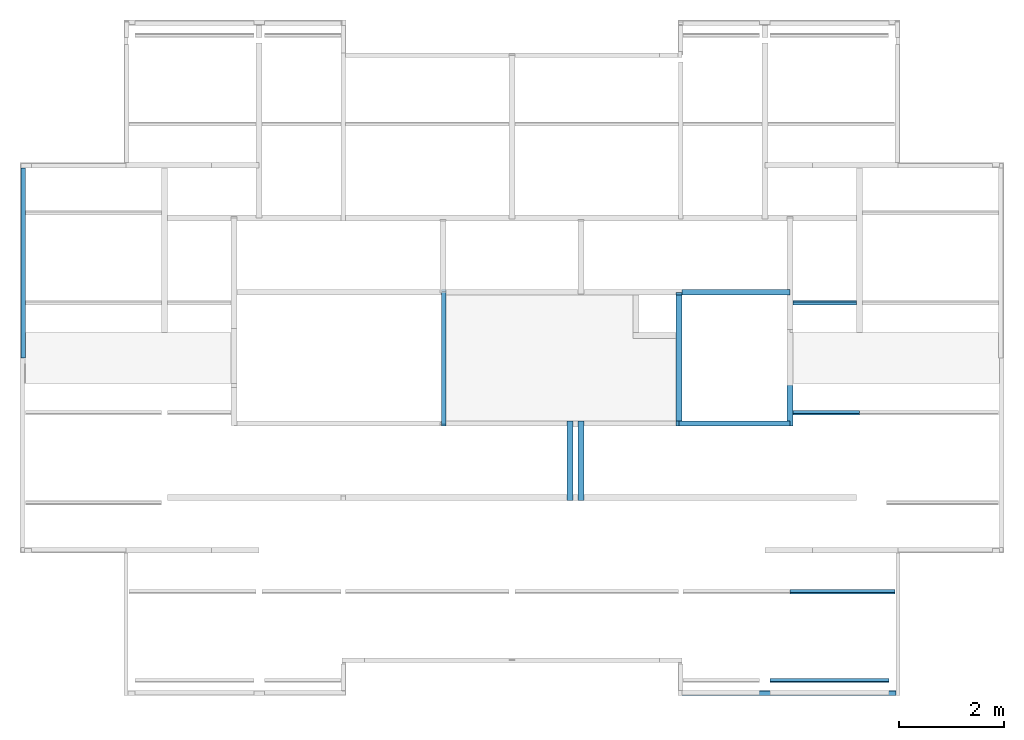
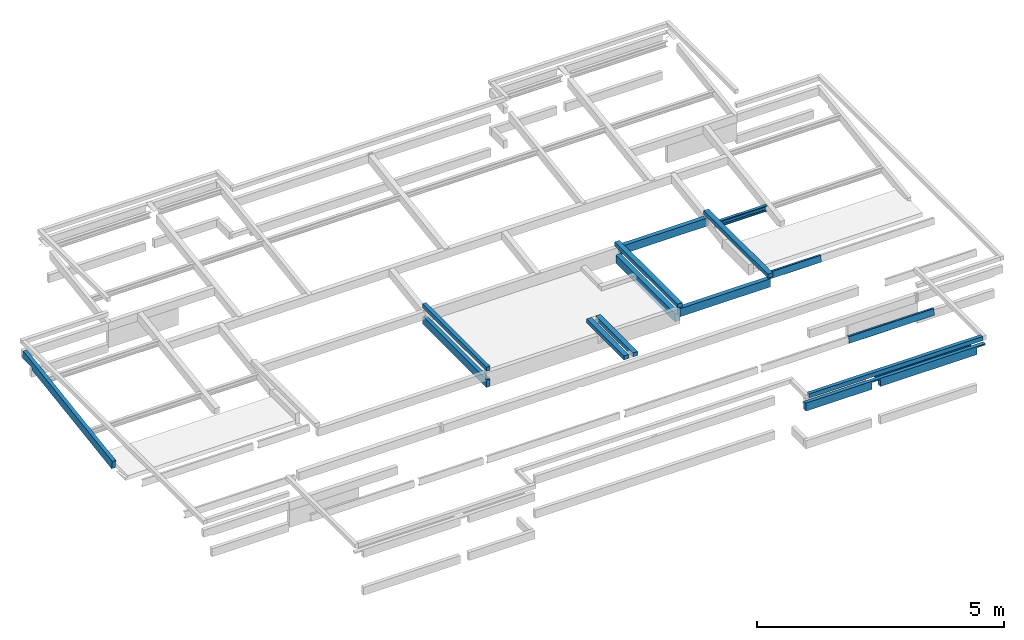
# One storey, part 3 of 9: 16 beams.
"""IFC4 building model written with IfcOpenShell, lengths in metres."""

from ifc_helpers import new_model, entity, si_unit, converted_unit, derived_unit, direction, frame, origin, place, context, subcontext, project, spatial, line, arc, indexed_curve, outline, extrude, source, transform, mapped, material, type_object, type_shapes, element, save


model = new_model("IFC4")

# Units and contexts
model_context = context("Model", 3, precision=1e-05, world=origin(), true_north=direction((6.123031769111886e-17, 1.0)))
body_context = subcontext(model_context, "Body", "Model", "MODEL_VIEW")
ifc_project = project(units=[si_unit("LENGTHUNIT", "METRE"), si_unit("AREAUNIT", "SQUARE_METRE"), si_unit("VOLUMEUNIT", "CUBIC_METRE"), converted_unit("PLANEANGLEUNIT", "DEGREE", entity("IfcRatioMeasure", 0.017453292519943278), si_unit("PLANEANGLEUNIT", "RADIAN"), dimensions=[0, 0, 0, 0, 0, 0, 0]), si_unit("MASSUNIT", "GRAM", prefix="KILO"), derived_unit("MASSDENSITYUNIT", [(si_unit("MASSUNIT", "GRAM", prefix="KILO"), 1), (si_unit("LENGTHUNIT", "METRE"), -3)]), derived_unit("IONCONCENTRATIONUNIT", [(si_unit("MASSUNIT", "GRAM", prefix="KILO"), 1), (si_unit("LENGTHUNIT", "METRE"), -3)]), derived_unit("MOMENTOFINERTIAUNIT", [(si_unit("LENGTHUNIT", "METRE"), 4)]), si_unit("TIMEUNIT", "SECOND"), si_unit("FREQUENCYUNIT", "HERTZ"), si_unit("THERMODYNAMICTEMPERATUREUNIT", "DEGREE_CELSIUS"), derived_unit("THERMALTRANSMITTANCEUNIT", [(si_unit("MASSUNIT", "GRAM", prefix="KILO"), 1), (si_unit("THERMODYNAMICTEMPERATUREUNIT", "KELVIN"), -1), (si_unit("TIMEUNIT", "SECOND"), -3)]), derived_unit("THERMALCONDUCTANCEUNIT", [(si_unit("MASSUNIT", "GRAM", prefix="KILO"), 1), (si_unit("THERMODYNAMICTEMPERATUREUNIT", "KELVIN"), -1), (si_unit("TIMEUNIT", "SECOND"), -3), (si_unit("LENGTHUNIT", "METRE"), 1)]), derived_unit("VOLUMETRICFLOWRATEUNIT", [(si_unit("LENGTHUNIT", "METRE"), 3), (si_unit("TIMEUNIT", "SECOND"), -1)]), derived_unit("MASSFLOWRATEUNIT", [(si_unit("MASSUNIT", "GRAM", prefix="KILO"), 1), (si_unit("TIMEUNIT", "SECOND"), -1)]), derived_unit("ROTATIONALFREQUENCYUNIT", [(si_unit("TIMEUNIT", "SECOND"), -1)]), si_unit("ELECTRICCURRENTUNIT", "AMPERE"), si_unit("ELECTRICVOLTAGEUNIT", "VOLT"), si_unit("POWERUNIT", "WATT"), si_unit("FORCEUNIT", "NEWTON", prefix="KILO"), si_unit("ILLUMINANCEUNIT", "LUX"), si_unit("LUMINOUSFLUXUNIT", "LUMEN"), si_unit("LUMINOUSINTENSITYUNIT", "CANDELA"), derived_unit("USERDEFINED", [(si_unit("MASSUNIT", "GRAM", prefix="KILO"), -1), (si_unit("LENGTHUNIT", "METRE"), -2), (si_unit("TIMEUNIT", "SECOND"), 3), (si_unit("LUMINOUSFLUXUNIT", "LUMEN"), 1)]), derived_unit("USERDEFINED", [(si_unit("MASSUNIT", "GRAM", prefix="KILO"), 1), (si_unit("TIMEUNIT", "SECOND"), -3), (si_unit("LENGTHUNIT", "METRE"), 3), (si_unit("ELECTRICCURRENTUNIT", "AMPERE"), -2)]), derived_unit("SOUNDPOWERUNIT", [(si_unit("MASSUNIT", "GRAM", prefix="KILO"), 1), (si_unit("TIMEUNIT", "SECOND"), -3), (si_unit("LENGTHUNIT", "METRE"), 2)]), derived_unit("SOUNDPRESSUREUNIT", [(si_unit("MASSUNIT", "GRAM", prefix="KILO"), 1), (si_unit("LENGTHUNIT", "METRE"), -1), (si_unit("TIMEUNIT", "SECOND"), -2)]), derived_unit("LINEARVELOCITYUNIT", [(si_unit("LENGTHUNIT", "METRE"), 1), (si_unit("TIMEUNIT", "SECOND"), -1)]), si_unit("PRESSUREUNIT", "PASCAL"), derived_unit("USERDEFINED", [(si_unit("MASSUNIT", "GRAM", prefix="KILO"), 1), (si_unit("LENGTHUNIT", "METRE"), -2), (si_unit("TIMEUNIT", "SECOND"), -2)]), derived_unit("LINEARFORCEUNIT", [(si_unit("MASSUNIT", "GRAM", prefix="KILO"), 1), (si_unit("TIMEUNIT", "SECOND"), -2)]), derived_unit("PLANARFORCEUNIT", [(si_unit("MASSUNIT", "GRAM", prefix="KILO"), 1), (si_unit("LENGTHUNIT", "METRE"), -1), (si_unit("TIMEUNIT", "SECOND"), -2)]), derived_unit("SPECIFICHEATCAPACITYUNIT", [(si_unit("THERMODYNAMICTEMPERATUREUNIT", "KELVIN"), -1), (si_unit("LENGTHUNIT", "METRE"), 2), (si_unit("TIMEUNIT", "SECOND"), -2)]), derived_unit("HEATINGVALUEUNIT", [(si_unit("LENGTHUNIT", "METRE"), 2), (si_unit("TIMEUNIT", "SECOND"), -2)]), derived_unit("VAPORPERMEABILITYUNIT", [(si_unit("LENGTHUNIT", "METRE"), -1), (si_unit("TIMEUNIT", "SECOND"), 1)]), derived_unit("DYNAMICVISCOSITYUNIT", [(si_unit("MASSUNIT", "GRAM", prefix="KILO"), 1), (si_unit("TIMEUNIT", "SECOND"), -1), (si_unit("LENGTHUNIT", "METRE"), -1)]), derived_unit("THERMALEXPANSIONCOEFFICIENTUNIT", [(si_unit("THERMODYNAMICTEMPERATUREUNIT", "KELVIN"), -1)]), derived_unit("MODULUSOFELASTICITYUNIT", [(si_unit("MASSUNIT", "GRAM", prefix="KILO"), 1), (si_unit("LENGTHUNIT", "METRE"), -1), (si_unit("TIMEUNIT", "SECOND"), -2)]), derived_unit("ISOTHERMALMOISTURECAPACITYUNIT", [(si_unit("LENGTHUNIT", "METRE"), 3), (si_unit("MASSUNIT", "GRAM", prefix="KILO"), -1)]), derived_unit("MOISTUREDIFFUSIVITYUNIT", [(si_unit("TIMEUNIT", "SECOND"), -1), (si_unit("LENGTHUNIT", "METRE"), 2)])], contexts=[model_context])

# Site, building, storey
site_placement = place(None, origin())
site = spatial("IfcSite", under=ifc_project, at=site_placement, Name="Default", CompositionType="ELEMENT")
building_placement = place(site_placement, origin())
building = spatial("IfcBuilding", under=site, at=building_placement, Name="Las nubes", CompositionType="ELEMENT")
storey_placement = place(building_placement, frame((0.0, 0.0, 14.100000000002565)))
storey = spatial("IfcBuildingStorey", under=building, at=storey_placement, Name="CUBIERTA", CompositionType="ELEMENT", Elevation=14.100000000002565)

# Beams
ifc_material_1 = material(Name="Concrete, Cast In Situ", Category="Materials")
beam_type_1 = type_object("IfcBeamType", Name="M_Concrete-Rectangular Beam:(0.085x0.20)", PredefinedType="BEAM", material=ifc_material_1)
shared_shape_1 = source(origin(), body_context, "Body", "SweptSolid", [
    extrude(outline(indexed_curve([(-1.4700214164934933, -0.14048731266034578), (2.185489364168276, -0.14048731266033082), (2.1854893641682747, 0.04137520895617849), (2.185489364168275, 0.059512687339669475), (-1.0708697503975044, 0.059512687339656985), (-1.079564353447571, 0.0015486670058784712), (-1.4659911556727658, 0.05951268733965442), (-1.4700214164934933, 0.05951268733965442), (-1.4700214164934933, -0.14048731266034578)], self_intersect=False)), frame((-0.027499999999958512, -4.242850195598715, 14.371388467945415), z_axis=(1.0, 0.0, 0.0), x_axis=(0.0, -0.9889363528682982, -0.1483404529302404)), (0.0, 0.0, 1.0), 0.08500000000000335),
])
type_shapes(beam_type_1, [shared_shape_1])
beam_1_placement = place(storey_placement, frame((0.0, 0.0, -14.100000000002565)))
element("IfcBeam", 1, at=beam_1_placement, inside=storey, type_object=beam_type_1, material=ifc_material_1, Name="M_Concrete-Rectangular Beam:(0.085x0.20)", ObjectType="M_Concrete-Rectangular Beam:(0.085x0.20)", PredefinedType="BEAM", context=body_context, shape_type="MappedRepresentation", body=[
    mapped(shared_shape_1, transform((0.0, 0.0, 0.0), scale=1.0)),
])
beam_type_2 = type_object("IfcBeamType", Name="M_Concrete-Rectangular Beam:(0.085x0.20)", PredefinedType="BEAM", material=ifc_material_1)
shared_shape_2 = source(origin(), body_context, "Body", "SweptSolid", [
    extrude(outline(indexed_curve([(-2.2989999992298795, -0.09428000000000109), (1.9060000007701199, -0.09428000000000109), (1.9060000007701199, -0.05858000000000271), (1.705999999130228, -0.05858000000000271), (1.705999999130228, 0.10571999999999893), (-0.5565000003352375, 0.10571999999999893), (-0.5565000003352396, -0.05858000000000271), (-0.7565000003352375, -0.05858000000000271), (-0.7565000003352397, 0.10571999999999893), (-2.2989999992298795, 0.10571999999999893), (-2.2989999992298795, -0.09428000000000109)], self_intersect=False)), frame((14.791500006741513, -12.840000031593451, 15.041420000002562), z_axis=(0.0, 1.0, 0.0), x_axis=(1.0, 0.0, 0.0)), (0.0, 0.0, 1.0), 0.08500000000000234),
])
type_shapes(beam_type_2, [shared_shape_2])
beam_2_placement = place(storey_placement, frame((0.0, 0.0, -14.100000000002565)))
element("IfcBeam", 2, at=beam_2_placement, inside=storey, type_object=beam_type_2, material=ifc_material_1, Name="M_Concrete-Rectangular Beam:(0.085x0.20)", ObjectType="M_Concrete-Rectangular Beam:(0.085x0.20)", PredefinedType="BEAM", context=body_context, shape_type="MappedRepresentation", body=[
    mapped(shared_shape_2, transform((0.0, 0.0, 0.0), scale=1.0)),
])
beam_type_3 = type_object("IfcBeamType", Name="M_Concrete-Rectangular Beam:(0.085x0.10)", PredefinedType="BEAM", material=ifc_material_1)
shared_shape_3 = source(origin(), body_context, "Body", "SweptSolid", [
    extrude(outline(indexed_curve([(-0.04250000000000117, -0.04999999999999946), (0.04250000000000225, -0.04999999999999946), (0.04250000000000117, 0.050000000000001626), (-0.04250000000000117, 0.04999999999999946), (-0.04250000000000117, -0.04999999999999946)], self_intersect=False)), frame((8.020000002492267, -7.725000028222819, 14.45000000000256), z_axis=(0.0, 1.0, 0.0), x_axis=(-1.0, 0.0, 0.0)), (0.0, 0.0, 1.0), 2.600000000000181),
])
type_shapes(beam_type_3, [shared_shape_3])
beam_3_placement = place(storey_placement, frame((0.0, 0.0, -14.100000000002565)))
element("IfcBeam", 3, at=beam_3_placement, inside=storey, type_object=beam_type_3, material=ifc_material_1, Name="M_Concrete-Rectangular Beam:(0.085x0.10)", ObjectType="M_Concrete-Rectangular Beam:(0.085x0.10)", PredefinedType="BEAM", context=body_context, shape_type="MappedRepresentation", body=[
    mapped(shared_shape_3, transform((0.0, 0.0, 0.0), scale=1.0)),
])
beam_type_4 = type_object("IfcBeamType", Name="M_Concrete-Rectangular Beam:(0.115x0.10)", PredefinedType="BEAM", material=ifc_material_1)
shared_shape_4 = source(origin(), body_context, "Body", "SweptSolid", [
    extrude(outline(indexed_curve([(-0.05750000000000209, -0.04999999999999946), (0.05750000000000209, -0.04999999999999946), (0.05750000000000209, 0.050000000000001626), (-0.05750000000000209, 0.04999999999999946), (-0.05750000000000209, -0.04999999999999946)], self_intersect=False)), frame((12.500000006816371, -7.725000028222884, 14.45000000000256), z_axis=(0.0, 1.0, 0.0), x_axis=(-1.0, 0.0, 0.0)), (0.0, 0.0, 1.0), 2.542500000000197),
])
type_shapes(beam_type_4, [shared_shape_4])
beam_4_placement = place(storey_placement, frame((0.0, 0.0, -14.100000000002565)))
element("IfcBeam", 4, at=beam_4_placement, inside=storey, type_object=beam_type_4, material=ifc_material_1, Name="M_Concrete-Rectangular Beam:(0.115x0.10)", ObjectType="M_Concrete-Rectangular Beam:(0.115x0.10)", PredefinedType="BEAM", context=body_context, shape_type="MappedRepresentation", body=[
    mapped(shared_shape_4, transform((0.0, 0.0, 0.0), scale=1.0)),
])
beam_type_5 = type_object("IfcBeamType", Name="M_Concrete-Rectangular Beam:(0.115x0.10)", PredefinedType="BEAM", material=ifc_material_1)
shared_shape_5 = source(origin(), body_context, "Body", "SweptSolid", [
    extrude(outline(indexed_curve([(-0.04999999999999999, -0.05750000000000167), (0.04999999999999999, -0.05750000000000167), (0.04999999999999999, 0.05750000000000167), (-0.04999999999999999, 0.05750000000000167), (-0.04999999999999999, -0.05750000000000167)], self_intersect=False)), frame((-1.299999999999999, 0.0, 0.0), z_axis=(1.0, 0.0, 0.0), x_axis=(0.0, 0.0, -1.0)), (0.0, 0.0, 1.0), 2.599999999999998),
])
type_shapes(beam_type_5, [shared_shape_5])
beam_5_placement = place(storey_placement, frame((14.615000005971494, -6.4250000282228, 0.35000000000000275), z_axis=(0.0, 0.0, 1.0), x_axis=(0.0, 1.0, 0.0)))
element("IfcBeam", 5, at=beam_5_placement, inside=storey, type_object=beam_type_5, material=ifc_material_1, Name="M_Concrete-Rectangular Beam:(0.115x0.10)", ObjectType="M_Concrete-Rectangular Beam:(0.115x0.10)", PredefinedType="BEAM", context=body_context, shape_type="MappedRepresentation", body=[
    mapped(shared_shape_5, transform((0.0, 0.0, 0.0), scale=1.0)),
])
beam_type_6 = type_object("IfcBeamType", Name="M_Concrete-Rectangular Beam:(0.115x0.10)", PredefinedType="BEAM", material=ifc_material_1)
shared_shape_6 = source(origin(), body_context, "Body", "SweptSolid", [
    extrude(outline(indexed_curve([(-0.05750000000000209, -0.04999999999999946), (0.05750000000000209, -0.04999999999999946), (0.05750000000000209, 0.050000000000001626), (-0.05750000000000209, 0.04999999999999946), (-0.05750000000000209, -0.04999999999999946)], self_intersect=False)), frame((10.430000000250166, -9.13999999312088, 14.750000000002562), z_axis=(0.0, 1.0, 0.0), x_axis=(-1.0, 0.0, 0.0)), (0.0, 0.0, 1.0), 1.5149999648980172),
])
type_shapes(beam_type_6, [shared_shape_6])
beam_6_placement = place(storey_placement, frame((0.0, 0.0, -14.100000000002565)))
element("IfcBeam", 6, at=beam_6_placement, inside=storey, type_object=beam_type_6, material=ifc_material_1, Name="M_Concrete-Rectangular Beam:(0.115x0.10)", ObjectType="M_Concrete-Rectangular Beam:(0.115x0.10)", PredefinedType="BEAM", context=body_context, shape_type="MappedRepresentation", body=[
    mapped(shared_shape_6, transform((0.0, 0.0, 0.0), scale=1.0)),
])
beam_type_7 = type_object("IfcBeamType", Name="M_Concrete-Rectangular Beam:(0.115x0.10)", PredefinedType="BEAM", material=ifc_material_1)
shared_shape_7 = source(origin(), body_context, "Body", "SweptSolid", [
    extrude(outline(indexed_curve([(-0.05750000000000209, -0.04999999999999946), (0.05750000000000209, -0.04999999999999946), (0.05750000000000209, 0.050000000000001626), (-0.05750000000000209, 0.04999999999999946), (-0.05750000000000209, -0.04999999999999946)], self_intersect=False)), frame((10.639999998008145, -9.13999999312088, 14.750000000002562), z_axis=(0.0, 1.0, 0.0), x_axis=(-1.0, 0.0, 0.0)), (0.0, 0.0, 1.0), 1.5149999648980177),
])
type_shapes(beam_type_7, [shared_shape_7])
beam_7_placement = place(storey_placement, frame((0.0, 0.0, -14.100000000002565)))
element("IfcBeam", 7, at=beam_7_placement, inside=storey, type_object=beam_type_7, material=ifc_material_1, Name="M_Concrete-Rectangular Beam:(0.115x0.10)", ObjectType="M_Concrete-Rectangular Beam:(0.115x0.10)", PredefinedType="BEAM", context=body_context, shape_type="MappedRepresentation", body=[
    mapped(shared_shape_7, transform((0.0, 0.0, 0.0), scale=1.0)),
])
ifc_material_2 = material(Name="Steel - 300+", Category="Materials")
beam_type_8 = type_object("IfcBeamType", Name="AUS-C Purlin:CR-1", PredefinedType="BEAM", material=ifc_material_2)
shared_shape_8 = source(origin(), body_context, "Body", "SweptSolid", [
    extrude(outline(indexed_curve([(-0.07614999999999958, -0.023850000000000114), (-0.05965000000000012, -0.023850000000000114), (-0.05965000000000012, -0.02185000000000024), (-0.07615000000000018, -0.02185000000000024), (-0.07721066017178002, -0.021410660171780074), (-0.0776500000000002, -0.020350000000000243), (-0.07765000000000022, 0.03265000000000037), (-0.07721066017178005, 0.033710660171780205), (-0.07615000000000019, 0.03415000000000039), (0.07334999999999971, 0.03415000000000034), (0.07688553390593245, 0.03268553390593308), (0.07834999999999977, 0.029150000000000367), (0.07834999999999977, -0.02035000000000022), (0.07791066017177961, -0.021410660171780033), (0.07684999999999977, -0.02185000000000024), (0.060349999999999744, -0.02185000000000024), (0.060349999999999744, -0.023850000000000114), (0.07685000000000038, -0.023850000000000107), (0.0793248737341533, -0.022824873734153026), (0.0803500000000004, -0.020350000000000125), (0.0803500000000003, 0.029149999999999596), (0.078299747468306, 0.034099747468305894), (0.0733499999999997, 0.03615000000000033), (-0.07614999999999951, 0.036150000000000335), (-0.07862487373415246, 0.03512487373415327), (-0.07964999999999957, 0.032650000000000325), (-0.07964999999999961, -0.020350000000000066), (-0.07862487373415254, -0.02282487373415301)], segments=[line(1, 2, 3, 4), arc(4, 5, 6), line(6, 7), arc(7, 8, 9), line(9, 10), arc(10, 11, 12), line(12, 13), arc(13, 14, 15), line(15, 16, 17, 18), arc(18, 19, 20), line(20, 21), arc(21, 22, 23), line(23, 24), arc(24, 25, 26), line(26, 27), arc(27, 28, 1)], self_intersect=False)), frame((-1.1022586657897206, -0.03415000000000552, 0.00034999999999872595), z_axis=(1.0, 0.0, 0.0), x_axis=(0.0, 0.0, -1.0)), (0.0, 0.0, 1.0), 2.262258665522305),
])
type_shapes(beam_type_8, [shared_shape_8])
beam_8_placement = place(storey_placement, frame((15.395000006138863, -12.594260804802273, 0.9306191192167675), z_axis=(0.0, 0.14834045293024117, 0.9889363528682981), x_axis=(-1.0, 0.0, 0.0)))
element("IfcBeam", 8, at=beam_8_placement, inside=storey, type_object=beam_type_8, material=ifc_material_2, Name="AUS-C Purlin:CR-1", ObjectType="AUS-C Purlin:CR-1", PredefinedType="BEAM", context=body_context, shape_type="MappedRepresentation", body=[
    mapped(shared_shape_8, transform((0.0, 0.0, 0.0), scale=1.0)),
])
beam_type_9 = type_object("IfcBeamType", Name="AUS-C Purlin:CR-1", PredefinedType="BEAM", material=ifc_material_2)
shared_shape_9 = source(origin(), body_context, "Body", "SweptSolid", [
    extrude(outline(indexed_curve([(-0.07614999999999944, -0.03615000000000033), (0.07334999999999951, -0.036150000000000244), (0.07829974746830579, -0.03409974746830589), (0.08035000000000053, -0.02914999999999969), (0.0803500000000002, 0.020350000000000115), (0.0793248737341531, 0.022824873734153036), (0.07685000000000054, 0.023850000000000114), (0.060349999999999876, 0.023850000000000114), (0.060349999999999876, 0.02185000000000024), (0.07684999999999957, 0.02185000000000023), (0.07791066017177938, 0.021410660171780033), (0.0783499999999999, 0.020350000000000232), (0.07834999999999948, -0.029150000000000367), (0.07688553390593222, -0.032685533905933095), (0.07334999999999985, -0.03415000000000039), (-0.07615000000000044, -0.03415000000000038), (-0.07721066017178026, -0.033710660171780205), (-0.07765000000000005, -0.03265000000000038), (-0.07765000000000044, 0.02035000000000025), (-0.07721066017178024, 0.021410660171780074), (-0.07615000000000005, 0.02185000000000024), (-0.059649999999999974, 0.02185000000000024), (-0.059649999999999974, 0.023850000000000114), (-0.07614999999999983, 0.023850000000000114), (-0.07862487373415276, 0.02282487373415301), (-0.07964999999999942, 0.020350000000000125), (-0.07964999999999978, -0.032650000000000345), (-0.07862487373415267, -0.03512487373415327)], segments=[line(1, 2), arc(2, 3, 4), line(4, 5), arc(5, 6, 7), line(7, 8, 9, 10), arc(10, 11, 12), line(12, 13), arc(13, 14, 15), line(15, 16), arc(16, 17, 18), line(18, 19), arc(19, 20, 21), line(21, 22, 23, 24), arc(24, 25, 26), line(26, 27), arc(27, 28, 1)], self_intersect=False)), frame((-1.0194756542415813, 0.03415000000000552, 0.00034999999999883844), z_axis=(1.0, 0.0, 0.0), x_axis=(0.0, 0.0, -1.0)), (0.0, 0.0, 1.0), 1.9961878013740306),
])
type_shapes(beam_type_9, [shared_shape_9])
beam_9_placement = place(storey_placement, frame((15.635000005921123, -10.904557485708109, 0.6771636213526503), z_axis=(0.0, 0.14834045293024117, 0.9889363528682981), x_axis=(1.0, 0.0, 0.0)))
element("IfcBeam", 9, at=beam_9_placement, inside=storey, type_object=beam_type_9, material=ifc_material_2, Name="AUS-C Purlin:CR-1", ObjectType="AUS-C Purlin:CR-1", PredefinedType="BEAM", context=body_context, shape_type="MappedRepresentation", body=[
    mapped(shared_shape_9, transform((0.0, 0.0, 0.0), scale=1.0)),
])
beam_type_10 = type_object("IfcBeamType", Name="AUS-C Purlin:CR-1", PredefinedType="BEAM", material=ifc_material_2)
shared_shape_10 = source(origin(), body_context, "Body", "SweptSolid", [
    extrude(outline(indexed_curve([(-0.07614999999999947, -0.03615000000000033), (0.07334999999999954, -0.036150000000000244), (0.07829974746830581, -0.03409974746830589), (0.08035000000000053, -0.02914999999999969), (0.08035000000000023, 0.020350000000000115), (0.07932487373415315, 0.022824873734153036), (0.07685000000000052, 0.023850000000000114), (0.06034999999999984, 0.023850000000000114), (0.06034999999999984, 0.02185000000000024), (0.0768499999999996, 0.02185000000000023), (0.07791066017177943, 0.02141066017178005), (0.0783499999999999, 0.020350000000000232), (0.07834999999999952, -0.029150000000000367), (0.07688553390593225, -0.032685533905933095), (0.07334999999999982, -0.03415000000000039), (-0.0761500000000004, -0.03415000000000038), (-0.07721066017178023, -0.033710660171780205), (-0.07765000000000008, -0.03265000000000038), (-0.0776500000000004, 0.02035000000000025), (-0.07721066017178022, 0.021410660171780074), (-0.07615000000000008, 0.02185000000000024), (-0.059650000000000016, 0.02185000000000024), (-0.059650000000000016, 0.023850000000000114), (-0.0761499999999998, 0.023850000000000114), (-0.07862487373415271, 0.022824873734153), (-0.07964999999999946, 0.020350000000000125), (-0.07964999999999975, -0.032650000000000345), (-0.07862487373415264, -0.03512487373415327)], segments=[line(1, 2), arc(2, 3, 4), line(4, 5), arc(5, 6, 7), line(7, 8, 9, 10), arc(10, 11, 12), line(12, 13), arc(13, 14, 15), line(15, 16), arc(16, 17, 18), line(18, 19), arc(19, 20, 21), line(21, 22, 23, 24), arc(24, 25, 26), line(26, 27), arc(27, 28, 1)], self_intersect=False)), frame((-0.6017504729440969, 0.03415000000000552, 0.0003499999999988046), z_axis=(1.0, 0.0, 0.0), x_axis=(0.0, 0.0, -1.0)), (0.0, 0.0, 1.0), 1.2034761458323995),
])
type_shapes(beam_type_10, [shared_shape_10])
beam_10_placement = place(storey_placement, frame((15.274999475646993, -5.3504425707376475, 0.1664136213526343), z_axis=(0.0, -0.14834045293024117, 0.9889363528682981), x_axis=(-1.0, 0.0, 0.0)))
element("IfcBeam", 10, at=beam_10_placement, inside=storey, type_object=beam_type_10, material=ifc_material_2, Name="AUS-C Purlin:CR-1", ObjectType="AUS-C Purlin:CR-1", PredefinedType="BEAM", context=body_context, shape_type="MappedRepresentation", body=[
    mapped(shared_shape_10, transform((0.0, 0.0, 0.0), scale=1.0)),
])
beam_type_11 = type_object("IfcBeamType", Name="AUS-C Purlin:CR-1", PredefinedType="BEAM", material=ifc_material_2)
shared_shape_11 = source(origin(), body_context, "Body", "SweptSolid", [
    extrude(outline(indexed_curve([(-0.07614999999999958, -0.023850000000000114), (-0.05965000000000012, -0.023850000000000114), (-0.05965000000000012, -0.02185000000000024), (-0.07615000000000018, -0.02185000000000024), (-0.07721066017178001, -0.021410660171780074), (-0.07765000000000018, -0.020350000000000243), (-0.0776500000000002, 0.03265000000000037), (-0.07721066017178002, 0.033710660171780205), (-0.07615000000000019, 0.03415000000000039), (0.07334999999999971, 0.03415000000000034), (0.07688553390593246, 0.03268553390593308), (0.07834999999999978, 0.029150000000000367), (0.07834999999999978, -0.02035000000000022), (0.07791066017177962, -0.021410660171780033), (0.0768499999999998, -0.02185000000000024), (0.060349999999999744, -0.02185000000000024), (0.060349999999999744, -0.023850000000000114), (0.07685000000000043, -0.023850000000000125), (0.07932487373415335, -0.022824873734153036), (0.08035000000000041, -0.020350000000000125), (0.08035000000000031, 0.029149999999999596), (0.07829974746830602, 0.034099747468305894), (0.0733499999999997, 0.03615000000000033), (-0.07614999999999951, 0.036150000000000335), (-0.07862487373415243, 0.03512487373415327), (-0.07964999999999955, 0.032650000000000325), (-0.0796499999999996, -0.020350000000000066), (-0.07862487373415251, -0.02282487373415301)], segments=[line(1, 2, 3, 4), arc(4, 5, 6), line(6, 7), arc(7, 8, 9), line(9, 10), arc(10, 11, 12), line(12, 13), arc(13, 14, 15), line(15, 16, 17, 18), arc(18, 19, 20), line(20, 21), arc(21, 22, 23), line(23, 24), arc(24, 25, 26), line(26, 27), arc(27, 28, 1)], self_intersect=False)), frame((-0.6592504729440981, -0.03415000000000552, 0.00034999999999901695), z_axis=(1.0, 0.0, 0.0), x_axis=(0.0, 0.0, -1.0)), (0.0, 0.0, 1.0), 1.2609761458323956),
])
type_shapes(beam_type_11, [shared_shape_11])
beam_11_placement = place(storey_placement, frame((15.27499947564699, -7.499557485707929, 0.1664136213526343), z_axis=(0.0, 0.14834045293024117, 0.9889363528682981), x_axis=(-1.0, 0.0, 0.0)))
element("IfcBeam", 11, at=beam_11_placement, inside=storey, type_object=beam_type_11, material=ifc_material_2, Name="AUS-C Purlin:CR-1", ObjectType="AUS-C Purlin:CR-1", PredefinedType="BEAM", context=body_context, shape_type="MappedRepresentation", body=[
    mapped(shared_shape_11, transform((0.0, 0.0, 0.0), scale=1.0)),
])
beam_type_12 = type_object("IfcBeamType", Name="M_Concrete-Rectangular Beam:(0.085x0.20)", PredefinedType="BEAM", material=ifc_material_1)
shared_shape_12 = source(origin(), body_context, "Body", "SweptSolid", [
    extrude(outline(indexed_curve([(1.2538832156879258, 0.16734040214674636), (1.2894425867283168, 0.16734040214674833), (1.2875456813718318, 0.17998643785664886), (1.262906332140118, 0.3442487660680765), (-1.3083281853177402, -0.04143641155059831), (-1.2836888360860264, -0.2056987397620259), (-1.28179193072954, -0.21834477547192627), (-1.2477975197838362, -0.20791170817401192), (-1.23996888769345, -0.23342000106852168), (-1.1797664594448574, -0.2243896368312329), (1.1936807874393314, 0.1316274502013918), (1.253883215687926, 0.14065781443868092), (1.2538832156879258, 0.16734040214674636)], self_intersect=False)), frame((7.9775000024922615, -6.425000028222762, 14.153100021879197), z_axis=(1.0, 0.0, 0.0), x_axis=(0.0, -0.9889363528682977, 0.14834045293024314)), (0.0, 0.0, 1.0), 0.08500000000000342),
])
type_shapes(beam_type_12, [shared_shape_12])
beam_12_placement = place(storey_placement, frame((0.0, 0.0, -14.100000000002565)))
element("IfcBeam", 12, at=beam_12_placement, inside=storey, type_object=beam_type_12, material=ifc_material_1, Name="M_Concrete-Rectangular Beam:(0.085x0.20)", ObjectType="M_Concrete-Rectangular Beam:(0.085x0.20)", PredefinedType="BEAM", context=body_context, shape_type="MappedRepresentation", body=[
    mapped(shared_shape_12, transform((0.0, 0.0, 0.0), scale=1.0)),
])
beam_type_13 = type_object("IfcBeamType", Name="M_Concrete-Rectangular Beam:(0.115x0.20)", PredefinedType="BEAM", material=ifc_material_1)
shared_shape_13 = source(origin(), body_context, "Body", "SweptSolid", [
    extrude(outline(indexed_curve([(-0.05750000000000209, -0.10000000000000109), (0.05750000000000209, -0.10000000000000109), (0.05750000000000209, 0.09999999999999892), (-0.05750000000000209, 0.09999999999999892), (-0.05750000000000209, -0.10000000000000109)], self_intersect=False)), frame((12.500000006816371, -7.625000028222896, 14.10000000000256), z_axis=(0.0, 1.0, 0.0), x_axis=(-1.0, 0.0, 0.0)), (0.0, 0.0, 1.0), 2.4000000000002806),
])
type_shapes(beam_type_13, [shared_shape_13])
beam_13_placement = place(storey_placement, frame((0.0, 0.0, -14.100000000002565)))
element("IfcBeam", 13, at=beam_13_placement, inside=storey, type_object=beam_type_13, material=ifc_material_1, Name="M_Concrete-Rectangular Beam:(0.115x0.20)", ObjectType="M_Concrete-Rectangular Beam:(0.115x0.20)", PredefinedType="BEAM", context=body_context, shape_type="MappedRepresentation", body=[
    mapped(shared_shape_13, transform((0.0, 0.0, 0.0), scale=1.0)),
])
beam_type_14 = type_object("IfcBeamType", Name="M_Concrete-Rectangular Beam:(0.085x0.10)", PredefinedType="BEAM", material=ifc_material_1)
shared_shape_14 = source(origin(), body_context, "Body", "SweptSolid", [
    extrude(outline(indexed_curve([(-0.05000000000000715, -0.04249999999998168), (0.04999999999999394, -0.042500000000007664), (0.050000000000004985, 0.04249999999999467), (-0.0499999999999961, 0.042500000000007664), (-0.05000000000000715, -0.04249999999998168)], self_intersect=False)), frame((12.562500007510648, -12.812500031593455, 15.29680000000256), z_axis=(1.0, 0.0, 0.0), x_axis=(0.0, 0.0, -1.0)), (0.0, 0.0, 1.0), 4.064999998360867),
])
type_shapes(beam_type_14, [shared_shape_14])
beam_14_placement = place(storey_placement, frame((0.0, 0.0, -14.100000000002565)))
element("IfcBeam", 14, at=beam_14_placement, inside=storey, type_object=beam_type_14, material=ifc_material_1, Name="M_Concrete-Rectangular Beam:(0.085x0.10)", ObjectType="M_Concrete-Rectangular Beam:(0.085x0.10)", PredefinedType="BEAM", context=body_context, shape_type="MappedRepresentation", body=[
    mapped(shared_shape_14, transform((0.0, 0.0, 0.0), scale=1.0)),
])
ifc_material_3 = material(Name="Concrete - Cast-in-Place Concrete - 28 MPa SLAB", Category="Materials")
beam_type_15 = type_object("IfcBeamType", Name="M_Concrete-Rectangular Beam:(0.10x0.20)", PredefinedType="BEAM", material=ifc_material_3)
shared_shape_15 = source(origin(), body_context, "Body", "SweptSolid", [
    extrude(outline(indexed_curve([(-0.0999999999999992, -0.05000000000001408), (0.10000000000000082, -0.04999999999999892), (0.09999999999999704, 0.050000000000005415), (-0.10000000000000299, 0.04999999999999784), (-0.0999999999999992, -0.05000000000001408)], self_intersect=False)), frame((12.50000000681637, -7.67500002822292, 14.266100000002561), z_axis=(1.0, 0.0, 0.0), x_axis=(0.0, 0.0, -1.0)), (0.0, 0.0, 1.0), 2.114999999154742),
])
type_shapes(beam_type_15, [shared_shape_15])
beam_15_placement = place(storey_placement, frame((0.0, 0.0, -14.100000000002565)))
element("IfcBeam", 15, at=beam_15_placement, inside=storey, type_object=beam_type_15, material=ifc_material_3, Name="M_Concrete-Rectangular Beam:(0.10x0.20)", ObjectType="M_Concrete-Rectangular Beam:(0.10x0.20)", PredefinedType="BEAM", context=body_context, shape_type="MappedRepresentation", body=[
    mapped(shared_shape_15, transform((0.0, 0.0, 0.0), scale=1.0)),
])
beam_type_16 = type_object("IfcBeamType", Name="M_Concrete-Rectangular Beam:(0.10x0.20)", PredefinedType="BEAM", material=ifc_material_3)
shared_shape_16 = source(origin(), body_context, "Body", "SweptSolid", [
    extrude(outline(indexed_curve([(-0.10000000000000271, -0.049999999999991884), (0.0999999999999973, -0.050000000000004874), (0.10000000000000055, 0.04999999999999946), (-0.09999999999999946, 0.050000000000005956), (-0.10000000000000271, -0.049999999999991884)], self_intersect=False)), frame((12.557500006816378, -5.175000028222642, 14.266100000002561), z_axis=(1.0, 0.0, 0.0), x_axis=(0.0, 0.0, -1.0)), (0.0, 0.0, 1.0), 2.0574999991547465),
])
type_shapes(beam_type_16, [shared_shape_16])
beam_16_placement = place(storey_placement, frame((0.0, 0.0, -14.100000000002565)))
element("IfcBeam", 16, at=beam_16_placement, inside=storey, type_object=beam_type_16, material=ifc_material_3, Name="M_Concrete-Rectangular Beam:(0.10x0.20)", ObjectType="M_Concrete-Rectangular Beam:(0.10x0.20)", PredefinedType="BEAM", context=body_context, shape_type="MappedRepresentation", body=[
    mapped(shared_shape_16, transform((0.0, 0.0, 0.0), scale=1.0)),
])

save(model, "model.ifc")
